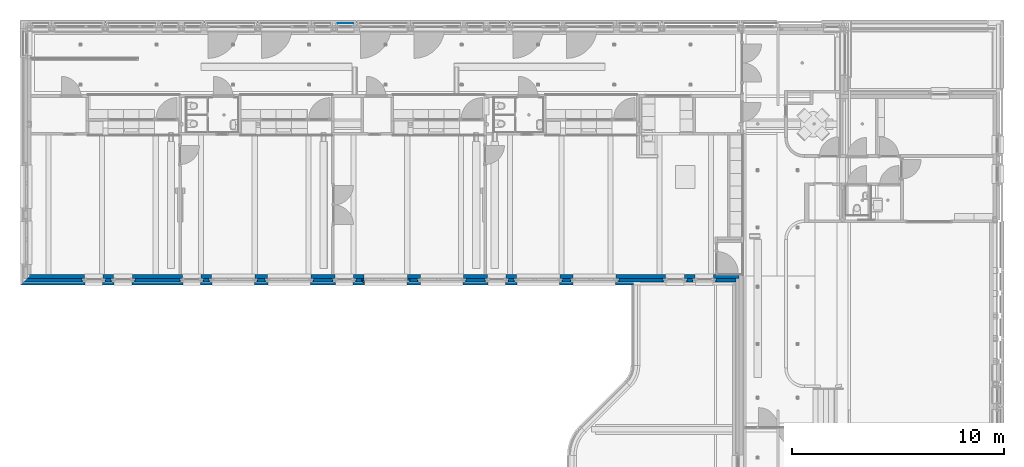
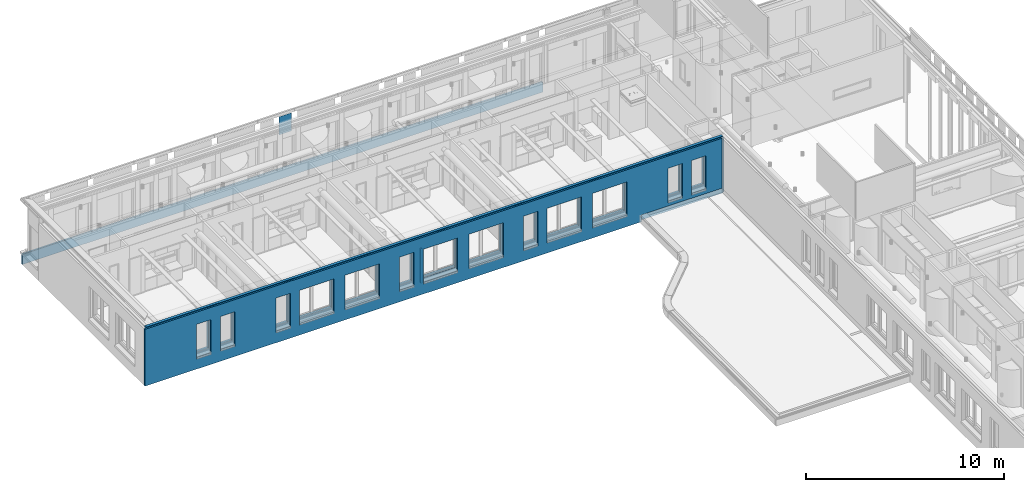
# One storey, part 48 of 128: 7 walls, 41 openings.
"""IFC2X3 building model written with IfcOpenShell, lengths in millimetres."""

from ifc_helpers import new_model, entity, si_unit, converted_unit, derived_unit, direction, frame, frame_2d, origin, place, context, subcontext, project, spatial, polyline, rectangle, outline, extrude, material, layer, layer_set, layer_usage, type_object, element, save


model = new_model("IFC2X3")

# Units and contexts
model_context = context("Model", 3, precision=0.01, world=origin(), true_north=direction((6.123031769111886e-17, 1.0)))
body_context = subcontext(model_context, "Body", "Model", "MODEL_VIEW")
ifc_project = project(units=[si_unit("LENGTHUNIT", "METRE", prefix="MILLI"), si_unit("AREAUNIT", "SQUARE_METRE"), si_unit("VOLUMEUNIT", "CUBIC_METRE"), converted_unit("PLANEANGLEUNIT", "DEGREE", entity("IfcRatioMeasure", 0.017453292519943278), si_unit("PLANEANGLEUNIT", "RADIAN"), dimensions=[0, 0, 0, 0, 0, 0, 0]), si_unit("MASSUNIT", "GRAM", prefix="KILO"), derived_unit("MASSDENSITYUNIT", [(si_unit("MASSUNIT", "GRAM", prefix="KILO"), 1), (si_unit("LENGTHUNIT", "METRE"), -3)]), derived_unit("IONCONCENTRATIONUNIT", [(si_unit("MASSUNIT", "GRAM", prefix="KILO"), 1), (si_unit("LENGTHUNIT", "METRE"), -3)]), derived_unit("MOMENTOFINERTIAUNIT", [(si_unit("LENGTHUNIT", "METRE"), 4)]), si_unit("TIMEUNIT", "SECOND"), si_unit("FREQUENCYUNIT", "HERTZ"), si_unit("THERMODYNAMICTEMPERATUREUNIT", "DEGREE_CELSIUS"), derived_unit("THERMALTRANSMITTANCEUNIT", [(si_unit("MASSUNIT", "GRAM", prefix="KILO"), 1), (si_unit("THERMODYNAMICTEMPERATUREUNIT", "KELVIN"), -1), (si_unit("TIMEUNIT", "SECOND"), -3)]), derived_unit("THERMALCONDUCTANCEUNIT", [(si_unit("MASSUNIT", "GRAM", prefix="KILO"), 1), (si_unit("THERMODYNAMICTEMPERATUREUNIT", "KELVIN"), -1), (si_unit("TIMEUNIT", "SECOND"), -3), (si_unit("LENGTHUNIT", "METRE"), 1)]), derived_unit("VOLUMETRICFLOWRATEUNIT", [(si_unit("LENGTHUNIT", "METRE"), 3), (si_unit("TIMEUNIT", "SECOND"), -1)]), derived_unit("MASSFLOWRATEUNIT", [(si_unit("MASSUNIT", "GRAM", prefix="KILO"), 1), (si_unit("TIMEUNIT", "SECOND"), -1)]), derived_unit("ROTATIONALFREQUENCYUNIT", [(si_unit("TIMEUNIT", "SECOND"), -1)]), si_unit("ELECTRICCURRENTUNIT", "AMPERE"), si_unit("ELECTRICVOLTAGEUNIT", "VOLT"), si_unit("POWERUNIT", "WATT"), si_unit("FORCEUNIT", "NEWTON", prefix="KILO"), si_unit("ILLUMINANCEUNIT", "LUX"), si_unit("LUMINOUSFLUXUNIT", "LUMEN"), si_unit("LUMINOUSINTENSITYUNIT", "CANDELA"), derived_unit("USERDEFINED", [(si_unit("MASSUNIT", "GRAM", prefix="KILO"), -1), (si_unit("LENGTHUNIT", "METRE"), -2), (si_unit("TIMEUNIT", "SECOND"), 3), (si_unit("LUMINOUSFLUXUNIT", "LUMEN"), 1)]), derived_unit("USERDEFINED", [(si_unit("MASSUNIT", "GRAM", prefix="KILO"), 1), (si_unit("TIMEUNIT", "SECOND"), -3), (si_unit("LENGTHUNIT", "METRE"), 3), (si_unit("ELECTRICCURRENTUNIT", "AMPERE"), -2)]), derived_unit("SOUNDPOWERUNIT", [(si_unit("MASSUNIT", "GRAM", prefix="KILO"), 1), (si_unit("TIMEUNIT", "SECOND"), -3), (si_unit("LENGTHUNIT", "METRE"), 2)]), derived_unit("SOUNDPRESSUREUNIT", [(si_unit("MASSUNIT", "GRAM", prefix="KILO"), 1), (si_unit("LENGTHUNIT", "METRE"), -1), (si_unit("TIMEUNIT", "SECOND"), -2)]), derived_unit("LINEARVELOCITYUNIT", [(si_unit("LENGTHUNIT", "METRE"), 1), (si_unit("TIMEUNIT", "SECOND"), -1)]), si_unit("PRESSUREUNIT", "PASCAL"), derived_unit("USERDEFINED", [(si_unit("MASSUNIT", "GRAM", prefix="KILO"), 1), (si_unit("LENGTHUNIT", "METRE"), -2), (si_unit("TIMEUNIT", "SECOND"), -2)]), derived_unit("LINEARFORCEUNIT", [(si_unit("MASSUNIT", "GRAM", prefix="KILO"), 1), (si_unit("TIMEUNIT", "SECOND"), -2)]), derived_unit("PLANARFORCEUNIT", [(si_unit("MASSUNIT", "GRAM", prefix="KILO"), 1), (si_unit("LENGTHUNIT", "METRE"), -1), (si_unit("TIMEUNIT", "SECOND"), -2)]), derived_unit("SPECIFICHEATCAPACITYUNIT", [(si_unit("THERMODYNAMICTEMPERATUREUNIT", "KELVIN"), -1), (si_unit("LENGTHUNIT", "METRE"), 2), (si_unit("TIMEUNIT", "SECOND"), -2)]), derived_unit("HEATINGVALUEUNIT", [(si_unit("LENGTHUNIT", "METRE"), 2), (si_unit("TIMEUNIT", "SECOND"), -2)]), derived_unit("VAPORPERMEABILITYUNIT", [(si_unit("LENGTHUNIT", "METRE"), -1), (si_unit("TIMEUNIT", "SECOND"), 1)]), derived_unit("DYNAMICVISCOSITYUNIT", [(si_unit("MASSUNIT", "GRAM", prefix="KILO"), 1), (si_unit("TIMEUNIT", "SECOND"), -1), (si_unit("LENGTHUNIT", "METRE"), -1)]), derived_unit("THERMALEXPANSIONCOEFFICIENTUNIT", [(si_unit("THERMODYNAMICTEMPERATUREUNIT", "KELVIN"), -1)]), derived_unit("MODULUSOFELASTICITYUNIT", [(si_unit("MASSUNIT", "GRAM", prefix="KILO"), 1), (si_unit("LENGTHUNIT", "METRE"), -1), (si_unit("TIMEUNIT", "SECOND"), -2)]), derived_unit("ISOTHERMALMOISTURECAPACITYUNIT", [(si_unit("LENGTHUNIT", "METRE"), 3), (si_unit("MASSUNIT", "GRAM", prefix="KILO"), -1)]), derived_unit("MOISTUREDIFFUSIVITYUNIT", [(si_unit("TIMEUNIT", "SECOND"), -1), (si_unit("LENGTHUNIT", "METRE"), 2)])], contexts=[model_context])

# Site, building, storey
site_placement = place(None, frame((0.0, 300.0, 0.0)))
site = spatial("IfcSite", under=ifc_project, at=site_placement, Name="<Kadastrale nummers>", CompositionType="ELEMENT")
building_placement = place(site_placement, origin())
building = spatial("IfcBuilding", under=site, at=building_placement, CompositionType="ELEMENT")
storey_placement = place(building_placement, frame((0.0, 0.0, 3560.0000331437)))
storey = spatial("IfcBuildingStorey", under=building, at=storey_placement, Name="01 eerste verdieping", CompositionType="ELEMENT", Elevation=3560.0000331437)

# Wall
ifc_material_1 = material(Name="ISR_Metselwerk")
ifc_layer_1 = layer(ifc_material_1, 100.0)
ifc_layer_set_1 = layer_set([ifc_layer_1], Name="Basic Wall:21_DAT_metselwerk_100")
ifc_layer_usage_1 = layer_usage(ifc_layer_set_1, "AXIS2", "POSITIVE", -50.0)
wall_type_1 = type_object("IfcWallType", Name="Basic Wall:21_DAT_metselwerk_100", PredefinedType="STANDARD", material=ifc_layer_set_1)
wall_1_placement = place(storey_placement, frame((32930.0, 50125.0, 90.00000187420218), z_axis=(0.0, 0.0, 1.0), x_axis=(-1.0, 0.0, 0.0)))
element("IfcWallStandardCase", 1, at=wall_1_placement, inside=storey, type_object=wall_type_1, material=ifc_layer_usage_1, Name="Basic Wall:21_DAT_metselwerk_100", ObjectType="Basic Wall:21_DAT_metselwerk_100", context=body_context, shape_type="SweptSolid", body=[
    extrude(rectangle(XDim=30304.999999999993, YDim=99.9999999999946, at=frame_2d((15152.499999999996, 8.171241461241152e-14), x_axis=(-1.0, 0.0))), origin(), (0.0, 0.0, 1.0), 625.0000000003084),
])

# Wall, openings
wall_2_placement = place(storey_placement, frame((2625.0, 37775.0, 90.00000187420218)))
wall_2 = element("IfcWallStandardCase", 2, at=wall_2_placement, inside=storey, type_object=wall_type_1, material=ifc_layer_usage_1, Name="Basic Wall:21_DAT_metselwerk_100", ObjectType="Basic Wall:21_DAT_metselwerk_100", context=body_context, shape_type="SweptSolid", body=[
    extrude(rectangle(XDim=33600.0, YDim=100.00000000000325, at=frame_2d((16800.0, 0.0), x_axis=(-1.0, 0.0))), origin(), (0.0, 0.0, 1.0), 3499.9999999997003),
])
opening_1_placement = place(wall_2_placement, origin())
element("IfcOpeningElement", 3, at=opening_1_placement, cuts=wall_2, Name="Basic Wall:21_DAT_metselwerk_100", ObjectType="Opening", context=body_context, shape_type="SweptSolid", body=[
    extrude(outline(polyline([(-201.66665624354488, -3166.642055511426), (313.33331061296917, -3166.642055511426), (313.33331061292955, 1533.3210277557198), (-111.66665436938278, 1533.3210277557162), (-111.66665436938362, 1633.3210277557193), (-201.66665624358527, 1633.3210277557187), (-201.66665624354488, -3166.642055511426)])), frame((32066.678972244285, -202.3999999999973, 111.66665436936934), z_axis=(0.0, 1.0, 0.0), x_axis=(0.0, 0.0, 1.0)), (0.0, 0.0, 1.0), 404.79999999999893),
])
opening_2_placement = place(wall_2_placement, frame((-2625.0, -37775.0, -90.0000018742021)))
element("IfcOpeningElement", 4, at=opening_2_placement, cuts=wall_2, Name="Basic Wall:21_DAT_metselwerk_100", ObjectType="Opening", context=body_context, shape_type="SweptSolid", body=[
    extrude(rectangle(XDim=2124.999999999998, YDim=2000.0000000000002, at=frame_2d((0.0, 2.2737367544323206e-13), x_axis=(0.0, 1.0))), frame((15290.0, 37725.0, 1777.5000018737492), z_axis=(0.0, 1.0, 0.0), x_axis=(1.0, 0.0, 0.0)), (0.0, 0.0, 1.0), 100.00000000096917),
])
opening_3_placement = place(wall_2_placement, frame((-2625.0, -37775.0, -90.0000018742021)))
element("IfcOpeningElement", 5, at=opening_3_placement, cuts=wall_2, Name="Basic Wall:21_DAT_metselwerk_100", ObjectType="Opening", context=body_context, shape_type="SweptSolid", body=[
    extrude(rectangle(XDim=2124.999999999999, YDim=2000.0000000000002, at=frame_2d((0.0, 2.2737367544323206e-13), x_axis=(0.0, 1.0))), frame((12640.0, 37725.0, 1777.5000018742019), z_axis=(0.0, 1.0, 0.0), x_axis=(1.0, 0.0, 0.0)), (0.0, 0.0, 1.0), 100.00000000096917),
])
opening_4_placement = place(wall_2_placement, frame((-2625.0, -37775.0, -90.0000018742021)))
element("IfcOpeningElement", 6, at=opening_4_placement, cuts=wall_2, Name="Basic Wall:21_DAT_metselwerk_100", ObjectType="Opening", context=body_context, shape_type="SweptSolid", body=[
    extrude(rectangle(XDim=2124.999999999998, YDim=1999.999999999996, at=frame_2d((2.1600499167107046e-12, 2.2737367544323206e-13), x_axis=(0.0, 1.0))), frame((22490.0, 37725.0, 1777.5000018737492), z_axis=(0.0, 1.0, 0.0), x_axis=(1.0, 0.0, 0.0)), (0.0, 0.0, 1.0), 100.00000000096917),
])
opening_5_placement = place(wall_2_placement, frame((-2625.0, -37775.0, -90.0000018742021)))
element("IfcOpeningElement", 7, at=opening_5_placement, cuts=wall_2, Name="Basic Wall:21_DAT_metselwerk_100", ObjectType="Opening", context=body_context, shape_type="SweptSolid", body=[
    extrude(rectangle(XDim=2124.999999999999, YDim=1999.999999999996, at=frame_2d((2.1600499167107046e-12, 2.2737367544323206e-13), x_axis=(0.0, 1.0))), frame((19840.0, 37725.0, 1777.5000018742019), z_axis=(0.0, 1.0, 0.0), x_axis=(1.0, 0.0, 0.0)), (0.0, 0.0, 1.0), 100.00000000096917),
])
opening_6_placement = place(wall_2_placement, frame((-2625.0, -37775.0, -90.0000018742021)))
element("IfcOpeningElement", 8, at=opening_6_placement, cuts=wall_2, Name="Basic Wall:21_DAT_metselwerk_100", ObjectType="Opening", context=body_context, shape_type="SweptSolid", body=[
    extrude(rectangle(XDim=2124.999999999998, YDim=1999.999999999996, at=frame_2d((2.1600499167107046e-12, 2.2737367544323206e-13), x_axis=(0.0, 1.0))), frame((29690.0, 37725.0, 1777.5000018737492), z_axis=(0.0, 1.0, 0.0), x_axis=(1.0, 0.0, 0.0)), (0.0, 0.0, 1.0), 100.00000000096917),
])
opening_7_placement = place(wall_2_placement, frame((-2625.0, -37775.0, -90.0000018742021)))
element("IfcOpeningElement", 9, at=opening_7_placement, cuts=wall_2, Name="Basic Wall:21_DAT_metselwerk_100", ObjectType="Opening", context=body_context, shape_type="SweptSolid", body=[
    extrude(rectangle(XDim=2124.999999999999, YDim=1999.999999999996, at=frame_2d((2.1600499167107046e-12, 2.2737367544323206e-13), x_axis=(0.0, 1.0))), frame((27040.0, 37725.0, 1777.5000018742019), z_axis=(0.0, 1.0, 0.0), x_axis=(1.0, 0.0, 0.0)), (0.0, 0.0, 1.0), 100.00000000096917),
])
opening_8_placement = place(wall_2_placement, frame((-2625.0, -37775.0, -90.0000018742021)))
element("IfcOpeningElement", 10, at=opening_8_placement, cuts=wall_2, Name="Basic Wall:21_DAT_metselwerk_100", ObjectType="Opening", context=body_context, shape_type="SweptSolid", body=[
    extrude(rectangle(XDim=2124.999999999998, YDim=839.9999999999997, at=frame_2d((0.0, 2.2737367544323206e-13), x_axis=(0.0, 1.0))), frame((10680.0, 37725.0, 1777.500001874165), z_axis=(0.0, 1.0, 0.0), x_axis=(1.0, 0.0, 0.0)), (0.0, 0.0, 1.0), 100.00000000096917),
])
opening_9_placement = place(wall_2_placement, frame((-2625.0, -37775.0, -90.0000018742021)))
element("IfcOpeningElement", 11, at=opening_9_placement, cuts=wall_2, Name="Basic Wall:21_DAT_metselwerk_100", ObjectType="Opening", context=body_context, shape_type="SweptSolid", body=[
    extrude(rectangle(XDim=2124.999999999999, YDim=839.9999999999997, at=frame_2d((0.0, -3.410605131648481e-13), x_axis=(0.0, 1.0))), frame((17880.0, 37725.0, 1777.5000018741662), z_axis=(0.0, 1.0, 0.0), x_axis=(1.0, 0.0, 0.0)), (0.0, 0.0, 1.0), 100.00000000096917),
])
opening_10_placement = place(wall_2_placement, frame((-2625.0, -37775.0, -90.0000018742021)))
element("IfcOpeningElement", 12, at=opening_10_placement, cuts=wall_2, Name="Basic Wall:21_DAT_metselwerk_100", ObjectType="Opening", context=body_context, shape_type="SweptSolid", body=[
    extrude(rectangle(XDim=2124.999999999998, YDim=839.9999999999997, at=frame_2d((0.0, 2.2737367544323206e-13), x_axis=(0.0, 1.0))), frame((25080.0, 37725.0, 1777.5000018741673), z_axis=(0.0, 1.0, 0.0), x_axis=(1.0, 0.0, 0.0)), (0.0, 0.0, 1.0), 100.00000000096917),
])
opening_11_placement = place(wall_2_placement, frame((-2625.0, -37775.0, -90.0000018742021)))
element("IfcOpeningElement", 13, at=opening_11_placement, cuts=wall_2, Name="Basic Wall:21_DAT_metselwerk_100", ObjectType="Opening", context=body_context, shape_type="SweptSolid", body=[
    extrude(rectangle(XDim=2124.999999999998, YDim=840.0000000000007, at=frame_2d((-5.400124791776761e-13, 2.2737367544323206e-13), x_axis=(0.0, 1.0))), frame((7440.0, 37725.0, 1777.500001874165), z_axis=(0.0, 1.0, 0.0), x_axis=(1.0, 0.0, 0.0)), (0.0, 0.0, 1.0), 100.00000000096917),
])
opening_12_placement = place(wall_2_placement, frame((-2625.0, -37775.0, -90.0000018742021)))
element("IfcOpeningElement", 14, at=opening_12_placement, cuts=wall_2, Name="Basic Wall:21_DAT_metselwerk_100", ObjectType="Opening", context=body_context, shape_type="SweptSolid", body=[
    extrude(rectangle(XDim=2124.999999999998, YDim=840.0000000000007, at=frame_2d((-5.400124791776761e-13, 2.2737367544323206e-13), x_axis=(0.0, 1.0))), frame((6060.0, 37725.0, 1777.500001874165), z_axis=(0.0, 1.0, 0.0), x_axis=(1.0, 0.0, 0.0)), (0.0, 0.0, 1.0), 100.00000000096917),
])
opening_13_placement = place(wall_2_placement, frame((-2625.0, -37775.0, -90.0000018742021)))
element("IfcOpeningElement", 15, at=opening_13_placement, cuts=wall_2, Name="Basic Wall:21_DAT_metselwerk_100", ObjectType="Opening", context=body_context, shape_type="SweptSolid", body=[
    extrude(rectangle(XDim=2124.999999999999, YDim=839.9999999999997, at=frame_2d((0.0, -3.410605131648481e-13), x_axis=(0.0, 1.0))), frame((33494.0, 37725.0, 1777.5000018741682), z_axis=(0.0, 1.0, 0.0), x_axis=(1.0, 0.0, 0.0)), (0.0, 0.0, 1.0), 100.00000000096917),
])
opening_14_placement = place(wall_2_placement, frame((-2625.0, -37775.0, -90.0000018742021)))
element("IfcOpeningElement", 16, at=opening_14_placement, cuts=wall_2, Name="Basic Wall:21_DAT_metselwerk_100", ObjectType="Opening", context=body_context, shape_type="SweptSolid", body=[
    extrude(rectangle(XDim=2124.999999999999, YDim=839.9999999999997, at=frame_2d((0.0, -3.410605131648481e-13), x_axis=(0.0, 1.0))), frame((34874.0, 37725.0, 1777.5000018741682), z_axis=(0.0, 1.0, 0.0), x_axis=(1.0, 0.0, 0.0)), (0.0, 0.0, 1.0), 100.00000000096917),
])

# Wall
wall_3_placement = place(storey_placement, frame((18790.0, 37825.0, 715.0000018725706), z_axis=(0.0, 0.0, 1.0), x_axis=(0.0, 1.0, 0.0)))
element("IfcWallStandardCase", 17, at=wall_3_placement, inside=storey, type_object=wall_type_1, material=ifc_layer_usage_1, Name="Basic Wall:21_DAT_metselwerk_100", ObjectType="Basic Wall:21_DAT_metselwerk_100", context=body_context, shape_type="SweptSolid", body=[
    extrude(rectangle(XDim=109.99999999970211, YDim=99.99999999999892, at=frame_2d((54.999999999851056, 6.998845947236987e-13), x_axis=(-1.0, 0.0))), origin(), (0.0, 0.0, 1.0), 2125.0000000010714),
])

# Wall, openings
ifc_material_2 = material(Name="ISR_Gips")
ifc_layer_2 = layer(ifc_material_2, 1.0)
ifc_material_3 = material(Name="ISR_Kalkzandsteen")
ifc_layer_3 = layer(ifc_material_3, 173.0)
ifc_layer_4 = layer(ifc_material_2, 1.0)
ifc_layer_set_2 = layer_set([ifc_layer_2, ifc_layer_3, ifc_layer_4], Name="Basic Wall:28_DAT_kalkzandsteen_175mm")
ifc_layer_usage_2 = layer_usage(ifc_layer_set_2, "AXIS2", "NEGATIVE", 87.49999999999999)
wall_type_2 = type_object("IfcWallType", Name="Basic Wall:28_DAT_kalkzandsteen_175mm", PredefinedType="STANDARD", material=ifc_layer_set_2)
wall_4_placement = place(storey_placement, frame((2925.0, 38112.49999999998, 0.0)))
wall_4 = element("IfcWallStandardCase", 18, at=wall_4_placement, inside=storey, type_object=wall_type_2, material=ifc_layer_usage_2, Name="Basic Wall:28_DAT_kalkzandsteen_175mm", ObjectType="Basic Wall:28_DAT_kalkzandsteen_175mm", context=body_context, shape_type="SweptSolid", body=[
    extrude(rectangle(XDim=33599.99999999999, YDim=175.00000000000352, at=frame_2d((16799.999999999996, 1.8260948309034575e-12), x_axis=(-1.0, 0.0))), origin(), (0.0, 0.0, 1.0), 3330.000001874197),
])
opening_15_placement = place(wall_4_placement, origin())
element("IfcOpeningElement", 19, at=opening_15_placement, cuts=wall_4, Name="Basic Wall:28_DAT_kalkzandsteen_175mm", ObjectType="Opening", context=body_context, shape_type="SweptSolid", body=[
    extrude(rectangle(XDim=1929.9999999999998, YDim=879.9999999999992, at=frame_2d((5.684341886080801e-13, 0.0), x_axis=(1.0, 0.0))), frame((7755.0, -239.89999999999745, 1865.0), z_axis=(0.0, 1.0, 0.0), x_axis=(0.0, 0.0, 1.0)), (0.0, 0.0, 1.0), 479.7999999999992),
])
opening_16_placement = place(wall_4_placement, origin())
element("IfcOpeningElement", 20, at=opening_16_placement, cuts=wall_4, Name="Basic Wall:28_DAT_kalkzandsteen_175mm", ObjectType="Opening", context=body_context, shape_type="SweptSolid", body=[
    extrude(rectangle(XDim=1929.9999999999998, YDim=879.9999999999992, at=frame_2d((5.684341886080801e-13, 0.0), x_axis=(1.0, 0.0))), frame((22155.0, -239.8999999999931, 1865.0), z_axis=(0.0, 1.0, 0.0), x_axis=(0.0, 0.0, 1.0)), (0.0, 0.0, 1.0), 479.7999999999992),
])
opening_17_placement = place(wall_4_placement, origin())
element("IfcOpeningElement", 21, at=opening_17_placement, cuts=wall_4, Name="Basic Wall:28_DAT_kalkzandsteen_175mm", ObjectType="Opening", context=body_context, shape_type="SweptSolid", body=[
    extrude(rectangle(XDim=1929.9999999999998, YDim=879.9999999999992, at=frame_2d((5.684341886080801e-13, 0.0), x_axis=(1.0, 0.0))), frame((31949.0, -239.8999999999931, 1865.0), z_axis=(0.0, 1.0, 0.0), x_axis=(0.0, 0.0, 1.0)), (0.0, 0.0, 1.0), 479.7999999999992),
])
opening_18_placement = place(wall_4_placement, origin())
element("IfcOpeningElement", 22, at=opening_18_placement, cuts=wall_4, Name="Basic Wall:28_DAT_kalkzandsteen_175mm", ObjectType="Opening", context=body_context, shape_type="SweptSolid", body=[
    extrude(rectangle(XDim=1929.9999999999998, YDim=879.9999999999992, at=frame_2d((5.684341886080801e-13, 0.0), x_axis=(1.0, 0.0))), frame((30569.0, -239.89999999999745, 1865.0), z_axis=(0.0, 1.0, 0.0), x_axis=(0.0, 0.0, 1.0)), (0.0, 0.0, 1.0), 479.7999999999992),
])
opening_19_placement = place(wall_4_placement, origin())
element("IfcOpeningElement", 23, at=opening_19_placement, cuts=wall_4, Name="Basic Wall:28_DAT_kalkzandsteen_175mm", ObjectType="Opening", context=body_context, shape_type="SweptSolid", body=[
    extrude(rectangle(XDim=1929.9999999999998, YDim=879.9999999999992, at=frame_2d((5.684341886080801e-13, 0.0), x_axis=(1.0, 0.0))), frame((4515.0, -239.8999999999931, 1865.0), z_axis=(0.0, 1.0, 0.0), x_axis=(0.0, 0.0, 1.0)), (0.0, 0.0, 1.0), 479.7999999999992),
])
opening_20_placement = place(wall_4_placement, origin())
element("IfcOpeningElement", 24, at=opening_20_placement, cuts=wall_4, Name="Basic Wall:28_DAT_kalkzandsteen_175mm", ObjectType="Opening", context=body_context, shape_type="SweptSolid", body=[
    extrude(rectangle(XDim=1929.9999999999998, YDim=879.9999999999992, at=frame_2d((5.684341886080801e-13, 0.0), x_axis=(1.0, 0.0))), frame((14955.0, -239.89999999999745, 1865.0), z_axis=(0.0, 1.0, 0.0), x_axis=(0.0, 0.0, 1.0)), (0.0, 0.0, 1.0), 479.7999999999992),
])
opening_21_placement = place(wall_4_placement, origin())
element("IfcOpeningElement", 25, at=opening_21_placement, cuts=wall_4, Name="Basic Wall:28_DAT_kalkzandsteen_175mm", ObjectType="Opening", context=body_context, shape_type="SweptSolid", body=[
    extrude(rectangle(XDim=1929.9999999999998, YDim=879.9999999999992, at=frame_2d((5.684341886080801e-13, 0.0), x_axis=(1.0, 0.0))), frame((3135.0, -239.89999999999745, 1865.0), z_axis=(0.0, 1.0, 0.0), x_axis=(0.0, 0.0, 1.0)), (0.0, 0.0, 1.0), 479.7999999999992),
])
opening_22_placement = place(wall_4_placement, origin())
element("IfcOpeningElement", 26, at=opening_22_placement, cuts=wall_4, Name="Basic Wall:28_DAT_kalkzandsteen_175mm", ObjectType="Opening", context=body_context, shape_type="SweptSolid", body=[
    extrude(rectangle(XDim=1930.000000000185, YDim=2039.9999999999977, at=frame_2d((0.0, -1.0800249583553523e-12), x_axis=(1.0, 0.0))), frame((12365.0, -239.90000000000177, 1865.0), z_axis=(0.0, 1.0, 0.0), x_axis=(0.0, 0.0, 1.0)), (0.0, 0.0, 1.0), 479.7999999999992),
])
opening_23_placement = place(wall_4_placement, origin())
element("IfcOpeningElement", 27, at=opening_23_placement, cuts=wall_4, Name="Basic Wall:28_DAT_kalkzandsteen_175mm", ObjectType="Opening", context=body_context, shape_type="SweptSolid", body=[
    extrude(rectangle(XDim=1930.000000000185, YDim=2039.9999999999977, at=frame_2d((0.0, 3.240074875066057e-12), x_axis=(1.0, 0.0))), frame((16915.0, -239.8999999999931, 1865.0), z_axis=(0.0, 1.0, 0.0), x_axis=(0.0, 0.0, 1.0)), (0.0, 0.0, 1.0), 479.7999999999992),
])
opening_24_placement = place(wall_4_placement, origin())
element("IfcOpeningElement", 28, at=opening_24_placement, cuts=wall_4, Name="Basic Wall:28_DAT_kalkzandsteen_175mm", ObjectType="Opening", context=body_context, shape_type="SweptSolid", body=[
    extrude(rectangle(XDim=1930.000000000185, YDim=2039.9999999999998, at=frame_2d((0.0, 2.1600499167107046e-12), x_axis=(1.0, 0.0))), frame((19565.0, -239.8999999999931, 1865.0), z_axis=(0.0, 1.0, 0.0), x_axis=(0.0, 0.0, 1.0)), (0.0, 0.0, 1.0), 479.7999999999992),
])
opening_25_placement = place(wall_4_placement, origin())
element("IfcOpeningElement", 29, at=opening_25_placement, cuts=wall_4, Name="Basic Wall:28_DAT_kalkzandsteen_175mm", ObjectType="Opening", context=body_context, shape_type="SweptSolid", body=[
    extrude(rectangle(XDim=1930.000000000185, YDim=2039.9999999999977, at=frame_2d((0.0, -1.0800249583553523e-12), x_axis=(1.0, 0.0))), frame((9715.0, -239.89999999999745, 1865.0), z_axis=(0.0, 1.0, 0.0), x_axis=(0.0, 0.0, 1.0)), (0.0, 0.0, 1.0), 479.7999999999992),
])
opening_26_placement = place(wall_4_placement, origin())
element("IfcOpeningElement", 30, at=opening_26_placement, cuts=wall_4, Name="Basic Wall:28_DAT_kalkzandsteen_175mm", ObjectType="Opening", context=body_context, shape_type="SweptSolid", body=[
    extrude(rectangle(XDim=1930.000000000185, YDim=2039.9999999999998, at=frame_2d((0.0, 2.1600499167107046e-12), x_axis=(1.0, 0.0))), frame((26765.0, -239.89999999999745, 1865.0), z_axis=(0.0, 1.0, 0.0), x_axis=(0.0, 0.0, 1.0)), (0.0, 0.0, 1.0), 479.7999999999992),
])
opening_27_placement = place(wall_4_placement, origin())
element("IfcOpeningElement", 31, at=opening_27_placement, cuts=wall_4, Name="Basic Wall:28_DAT_kalkzandsteen_175mm", ObjectType="Opening", context=body_context, shape_type="SweptSolid", body=[
    extrude(rectangle(XDim=1930.000000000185, YDim=2039.9999999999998, at=frame_2d((0.0, 2.1600499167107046e-12), x_axis=(1.0, 0.0))), frame((24115.0, -239.89999999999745, 1865.0), z_axis=(0.0, 1.0, 0.0), x_axis=(0.0, 0.0, 1.0)), (0.0, 0.0, 1.0), 479.7999999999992),
])

ifc_material_4 = material(Name="ISR_Isolatie")
ifc_layer_5 = layer(ifc_material_4, 160.0)
ifc_layer_set_3 = layer_set([ifc_layer_5], Name="Basic Wall:21_DAT_isolatie minerale wol_160")
ifc_layer_usage_3 = layer_usage(ifc_layer_set_3, "AXIS2", "NEGATIVE", 80.0)
wall_type_3 = type_object("IfcWallType", Name="Basic Wall:21_DAT_isolatie minerale wol_160", PredefinedType="STANDARD", material=ifc_layer_set_3)
wall_5_placement = place(storey_placement, frame((36365.0, 37945.0, 90.00000187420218), z_axis=(0.0, 0.0, 1.0), x_axis=(-1.0, 0.0, 0.0)))
wall_5 = element("IfcWallStandardCase", 32, at=wall_5_placement, inside=storey, type_object=wall_type_3, material=ifc_layer_usage_3, Name="Basic Wall:21_DAT_isolatie minerale wol_160", ObjectType="Basic Wall:21_DAT_isolatie minerale wol_160", context=body_context, shape_type="SweptSolid", body=[
    extrude(rectangle(XDim=33600.0, YDim=159.99999999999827, at=frame_2d((16800.0, 0.0), x_axis=(-1.0, 0.0))), origin(), (0.0, 0.0, 1.0), 3499.9999999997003),
])
opening_28_placement = place(wall_5_placement, origin())
element("IfcOpeningElement", 33, at=opening_28_placement, cuts=wall_5, Name="Basic Wall:21_DAT_isolatie minerale wol_160", ObjectType="Opening", context=body_context, shape_type="SweptSolid", body=[
    extrude(rectangle(XDim=2312.5000000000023, YDim=2289.999999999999, at=frame_2d((0.0, 2.2737367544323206e-13), x_axis=(0.0, 1.0))), frame((6670.0, -232.3999999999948, 1718.7499999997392), z_axis=(0.0, 1.0, 0.0), x_axis=(-1.0, 0.0, 0.0)), (0.0, 0.0, 1.0), 464.7999999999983),
])
opening_29_placement = place(wall_5_placement, origin())
element("IfcOpeningElement", 34, at=opening_29_placement, cuts=wall_5, Name="Basic Wall:21_DAT_isolatie minerale wol_160", ObjectType="Opening", context=body_context, shape_type="SweptSolid", body=[
    extrude(rectangle(XDim=2312.5000000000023, YDim=2289.999999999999, at=frame_2d((0.0, 2.2737367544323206e-13), x_axis=(0.0, 1.0))), frame((9320.0, -232.39999999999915, 1718.7499999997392), z_axis=(0.0, 1.0, 0.0), x_axis=(-1.0, 0.0, 0.0)), (0.0, 0.0, 1.0), 464.7999999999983),
])
opening_30_placement = place(wall_5_placement, origin())
element("IfcOpeningElement", 35, at=opening_30_placement, cuts=wall_5, Name="Basic Wall:21_DAT_isolatie minerale wol_160", ObjectType="Opening", context=body_context, shape_type="SweptSolid", body=[
    extrude(rectangle(XDim=2312.5000000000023, YDim=2289.999999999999, at=frame_2d((0.0, 2.2737367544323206e-13), x_axis=(0.0, 1.0))), frame((13870.0, -232.39999999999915, 1718.7499999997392), z_axis=(0.0, 1.0, 0.0), x_axis=(-1.0, 0.0, 0.0)), (0.0, 0.0, 1.0), 464.7999999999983),
])
opening_31_placement = place(wall_5_placement, origin())
element("IfcOpeningElement", 36, at=opening_31_placement, cuts=wall_5, Name="Basic Wall:21_DAT_isolatie minerale wol_160", ObjectType="Opening", context=body_context, shape_type="SweptSolid", body=[
    extrude(rectangle(XDim=2312.5000000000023, YDim=2289.999999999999, at=frame_2d((0.0, 2.2737367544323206e-13), x_axis=(0.0, 1.0))), frame((16520.0, -232.39999999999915, 1718.7499999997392), z_axis=(0.0, 1.0, 0.0), x_axis=(-1.0, 0.0, 0.0)), (0.0, 0.0, 1.0), 464.7999999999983),
])
opening_32_placement = place(wall_5_placement, origin())
element("IfcOpeningElement", 37, at=opening_32_placement, cuts=wall_5, Name="Basic Wall:21_DAT_isolatie minerale wol_160", ObjectType="Opening", context=body_context, shape_type="SweptSolid", body=[
    extrude(rectangle(XDim=2312.5000000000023, YDim=2289.999999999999, at=frame_2d((0.0, 2.2737367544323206e-13), x_axis=(0.0, 1.0))), frame((21070.0, -232.39999999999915, 1718.7499999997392), z_axis=(0.0, 1.0, 0.0), x_axis=(-1.0, 0.0, 0.0)), (0.0, 0.0, 1.0), 464.7999999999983),
])
opening_33_placement = place(wall_5_placement, origin())
element("IfcOpeningElement", 38, at=opening_33_placement, cuts=wall_5, Name="Basic Wall:21_DAT_isolatie minerale wol_160", ObjectType="Opening", context=body_context, shape_type="SweptSolid", body=[
    extrude(rectangle(XDim=2312.5000000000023, YDim=2289.999999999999, at=frame_2d((0.0, 2.2737367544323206e-13), x_axis=(0.0, 1.0))), frame((23720.0, -232.39999999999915, 1718.7499999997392), z_axis=(0.0, 1.0, 0.0), x_axis=(-1.0, 0.0, 0.0)), (0.0, 0.0, 1.0), 464.7999999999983),
])
opening_34_placement = place(wall_5_placement, origin())
element("IfcOpeningElement", 39, at=opening_34_placement, cuts=wall_5, Name="Basic Wall:21_DAT_isolatie minerale wol_160", ObjectType="Opening", context=body_context, shape_type="SweptSolid", body=[
    extrude(rectangle(XDim=2375.000035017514, YDim=1119.9999999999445, at=frame_2d((0.0, 0.0), x_axis=(0.0, 1.0))), frame((1491.0, -232.40000000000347, 1687.4999824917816), z_axis=(0.0, 1.0, 0.0), x_axis=(-1.0, 0.0, 0.0)), (0.0, 0.0, 1.0), 464.7999999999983),
])
opening_35_placement = place(wall_5_placement, origin())
element("IfcOpeningElement", 40, at=opening_35_placement, cuts=wall_5, Name="Basic Wall:21_DAT_isolatie minerale wol_160", ObjectType="Opening", context=body_context, shape_type="SweptSolid", body=[
    extrude(rectangle(XDim=2375.000035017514, YDim=1119.9999999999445, at=frame_2d((0.0, 0.0), x_axis=(0.0, 1.0))), frame((2871.0, -232.39999999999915, 1687.4999824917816), z_axis=(0.0, 1.0, 0.0), x_axis=(-1.0, 0.0, 0.0)), (0.0, 0.0, 1.0), 464.7999999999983),
])
opening_36_placement = place(wall_5_placement, origin())
element("IfcOpeningElement", 41, at=opening_36_placement, cuts=wall_5, Name="Basic Wall:21_DAT_isolatie minerale wol_160", ObjectType="Opening", context=body_context, shape_type="SweptSolid", body=[
    extrude(rectangle(XDim=2375.000035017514, YDim=1119.9999999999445, at=frame_2d((0.0, 0.0), x_axis=(0.0, 1.0))), frame((11285.0, -232.39999999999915, 1687.4999824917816), z_axis=(0.0, 1.0, 0.0), x_axis=(-1.0, 0.0, 0.0)), (0.0, 0.0, 1.0), 464.7999999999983),
])
opening_37_placement = place(wall_5_placement, origin())
element("IfcOpeningElement", 42, at=opening_37_placement, cuts=wall_5, Name="Basic Wall:21_DAT_isolatie minerale wol_160", ObjectType="Opening", context=body_context, shape_type="SweptSolid", body=[
    extrude(rectangle(XDim=2375.000035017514, YDim=1119.9999999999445, at=frame_2d((0.0, 0.0), x_axis=(0.0, 1.0))), frame((18485.0, -232.39999999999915, 1687.4999824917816), z_axis=(0.0, 1.0, 0.0), x_axis=(-1.0, 0.0, 0.0)), (0.0, 0.0, 1.0), 464.7999999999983),
])
opening_38_placement = place(wall_5_placement, origin())
element("IfcOpeningElement", 43, at=opening_38_placement, cuts=wall_5, Name="Basic Wall:21_DAT_isolatie minerale wol_160", ObjectType="Opening", context=body_context, shape_type="SweptSolid", body=[
    extrude(rectangle(XDim=2375.000035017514, YDim=1119.9999999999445, at=frame_2d((0.0, 0.0), x_axis=(0.0, 1.0))), frame((25685.0, -232.40000000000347, 1687.4999824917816), z_axis=(0.0, 1.0, 0.0), x_axis=(-1.0, 0.0, 0.0)), (0.0, 0.0, 1.0), 464.7999999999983),
])
opening_39_placement = place(wall_5_placement, origin())
element("IfcOpeningElement", 44, at=opening_39_placement, cuts=wall_5, Name="Basic Wall:21_DAT_isolatie minerale wol_160", ObjectType="Opening", context=body_context, shape_type="SweptSolid", body=[
    extrude(rectangle(XDim=2375.000035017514, YDim=1119.9999999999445, at=frame_2d((0.0, 0.0), x_axis=(0.0, 1.0))), frame((28925.0, -232.40000000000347, 1687.4999824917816), z_axis=(0.0, 1.0, 0.0), x_axis=(-1.0, 0.0, 0.0)), (0.0, 0.0, 1.0), 464.7999999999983),
])
opening_40_placement = place(wall_5_placement, origin())
element("IfcOpeningElement", 45, at=opening_40_placement, cuts=wall_5, Name="Basic Wall:21_DAT_isolatie minerale wol_160", ObjectType="Opening", context=body_context, shape_type="SweptSolid", body=[
    extrude(rectangle(XDim=2375.000035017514, YDim=1119.9999999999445, at=frame_2d((0.0, 0.0), x_axis=(0.0, 1.0))), frame((30305.0, -232.40000000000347, 1687.4999824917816), z_axis=(0.0, 1.0, 0.0), x_axis=(-1.0, 0.0, 0.0)), (0.0, 0.0, 1.0), 464.7999999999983),
])

# Wall
ifc_material_5 = material(Name="STAAL_RAL 7006")
ifc_layer_6 = layer(ifc_material_5, 2.0)
ifc_layer_set_4 = layer_set([ifc_layer_6], Name="Basic Wall:21_DAT_zetwerk_2")
ifc_layer_usage_4 = layer_usage(ifc_layer_set_4, "AXIS2", "NEGATIVE", 1.000000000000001)
wall_type_4 = type_object("IfcWallType", Name="Basic Wall:21_DAT_zetwerk_2", PredefinedType="STANDARD", material=ifc_layer_set_4)
wall_6_placement = place(storey_placement, frame((17568.0, 50071.0, 2829.9999668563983)))
element("IfcWallStandardCase", 46, at=wall_6_placement, inside=storey, type_object=wall_type_4, material=ifc_layer_usage_4, Name="Basic Wall:21_DAT_zetwerk_2", ObjectType="Basic Wall:21_DAT_zetwerk_2", context=body_context, shape_type="SweptSolid", body=[
    extrude(rectangle(XDim=733.9999999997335, YDim=1.9999999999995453, at=frame_2d((366.99999999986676, 0.0), x_axis=(-1.0, 0.0))), origin(), (0.0, 0.0, 1.0), 1120.0000000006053),
])

# Wall, opening
ifc_layer_7 = layer(ifc_material_4, 70.0)
ifc_layer_set_5 = layer_set([ifc_layer_7], Name="Basic Wall:21_DAT_isolatie hard_74")
ifc_layer_usage_5 = layer_usage(ifc_layer_set_5, "AXIS2", "POSITIVE", -35.0)
wall_type_5 = type_object("IfcWallType", Name="Basic Wall:21_DAT_isolatie hard_74", PredefinedType="STANDARD", material=ifc_layer_set_5)
wall_7_placement = place(storey_placement, frame((18700.0, 37990.0, 652.50000187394)))
wall_7 = element("IfcWallStandardCase", 47, at=wall_7_placement, inside=storey, type_object=wall_type_5, material=ifc_layer_usage_5, Name="Basic Wall:21_DAT_isolatie hard_74", ObjectType="Basic Wall:21_DAT_isolatie hard_74", context=body_context, shape_type="SweptSolid", body=[
    extrude(rectangle(XDim=2289.999999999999, YDim=70.0000000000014, at=frame_2d((1144.9999999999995, -1.751487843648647e-12), x_axis=(-1.0, 0.0))), origin(), (0.0, 0.0, 1.0), 2312.5000000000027),
])
opening_41_placement = place(wall_7_placement, origin())
element("IfcOpeningElement", 48, at=opening_41_placement, cuts=wall_7, Name="Basic Wall:21_DAT_isolatie hard_74", ObjectType="Opening", context=body_context, shape_type="SweptSolid", body=[
    extrude(rectangle(XDim=1930.000000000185, YDim=2039.9999999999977, at=frame_2d((0.0, 3.240074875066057e-12), x_axis=(1.0, 0.0))), frame((1140.0, -187.40000000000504, 1212.499999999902), z_axis=(0.0, 1.0, 0.0), x_axis=(0.0, 0.0, 1.0)), (0.0, 0.0, 1.0), 374.80000000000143),
])

save(model, "model.ifc")
